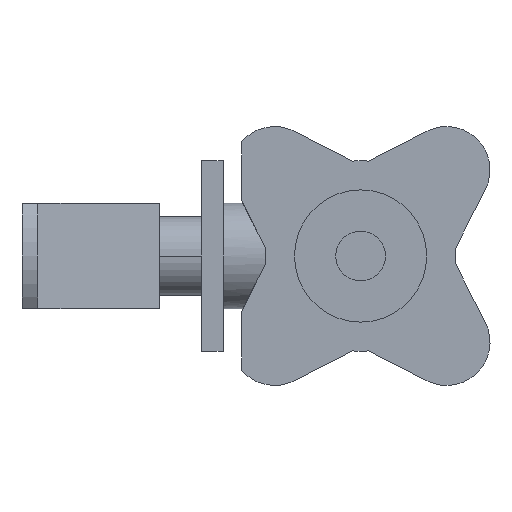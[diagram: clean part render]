
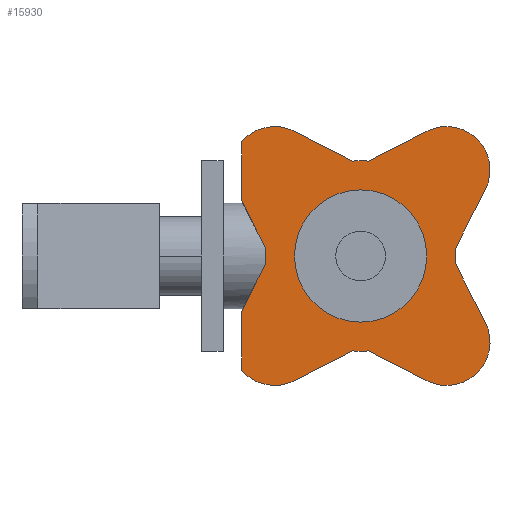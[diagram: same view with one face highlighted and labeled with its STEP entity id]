
A CAD part, left-side view. The second image highlights one B-rep face of the part: STEP entity #15930.
In plain terms, the highlighted planar face has unit normal (-1, 0, 0).
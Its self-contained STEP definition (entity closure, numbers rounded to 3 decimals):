
#60=CARTESIAN_POINT('',(20.281,26.737,
-16.263));
#70=DIRECTION('',(1.,0.,0.));
#80=DIRECTION('',(0.,0.707,
-0.707));
#90=AXIS2_PLACEMENT_3D('',#60,#70,#80);
#100=CIRCLE('',#90,8.2);
#110=CARTESIAN_POINT('',(20.281,19.43,
-12.541));
#120=VERTEX_POINT('',#110);
#130=CARTESIAN_POINT('',(20.281,30.459,
-23.57));
#140=VERTEX_POINT('',#130);
#150=EDGE_CURVE('',#120,#140,#100,.T.);
#480=CARTESIAN_POINT('',(20.281,27.678,
3.645));
#490=DIRECTION('',(0.,0.454,
0.891));
#500=VECTOR('',#490,1.);
#510=LINE('',#480,#500);
#520=CARTESIAN_POINT('',(20.281,25.062,
-1.489));
#530=VERTEX_POINT('',#520);
#540=EDGE_CURVE('',#120,#530,#510,.T.);
#790=CARTESIAN_POINT('',(20.281,43.,
0.));
#800=DIRECTION('',(1.,0.,0.));
#810=DIRECTION('',(0.,0.707,
-0.707));
#820=AXIS2_PLACEMENT_3D('',#790,#800,#810);
#830=CIRCLE('',#820,18.);
#840=CARTESIAN_POINT('',(20.281,25.062,
1.489));
#850=VERTEX_POINT('',#840);
#860=EDGE_CURVE('',#850,#530,#830,.T.);
#1120=CARTESIAN_POINT('',(20.281,34.542,
-17.118));
#1130=DIRECTION('',(0.,-0.454,
0.891));
#1140=VECTOR('',#1130,1.);
#1150=LINE('',#1120,#1140);
#1160=CARTESIAN_POINT('',(20.281,19.43,
12.541));
#1170=VERTEX_POINT('',#1160);
#1180=EDGE_CURVE('',#850,#1170,#1150,.T.);
#1430=CARTESIAN_POINT('',(20.281,26.737,
16.263));
#1440=DIRECTION('',(1.,0.,0.));
#1450=DIRECTION('',(0.,0.707,
-0.707));
#1460=AXIS2_PLACEMENT_3D('',#1430,#1440,#1450);
#1470=CIRCLE('',#1460,8.2);
#1480=CARTESIAN_POINT('',(20.281,30.459,
23.57));
#1490=VERTEX_POINT('',#1480);
#1500=EDGE_CURVE('',#1490,#1170,#1470,.T.);
#1760=CARTESIAN_POINT('',(20.281,60.118,
8.458));
#1770=DIRECTION('',(0.,0.891,
-0.454));
#1780=VECTOR('',#1770,1.);
#1790=LINE('',#1760,#1780);
#1800=CARTESIAN_POINT('',(20.281,41.511,
17.938));
#1810=VERTEX_POINT('',#1800);
#1820=EDGE_CURVE('',#1490,#1810,#1790,.T.);
#2070=CARTESIAN_POINT('',(20.281,43.,
0.));
#2080=DIRECTION('',(1.,0.,0.));
#2090=DIRECTION('',(0.,0.707,
-0.707));
#2100=AXIS2_PLACEMENT_3D('',#2070,#2080,#2090);
#2110=CIRCLE('',#2100,18.);
#2120=CARTESIAN_POINT('',(20.281,44.489,
17.938));
#2130=VERTEX_POINT('',#2120);
#2140=EDGE_CURVE('',#2130,#1810,#2110,.T.);
#2400=CARTESIAN_POINT('',(20.281,39.355,
15.322));
#2410=DIRECTION('',(0.,0.891,
0.454));
#2420=VECTOR('',#2410,1.);
#2430=LINE('',#2400,#2420);
#2440=CARTESIAN_POINT('',(20.281,55.541,
23.57));
#2450=VERTEX_POINT('',#2440);
#2460=EDGE_CURVE('',#2130,#2450,#2430,.T.);
#2710=CARTESIAN_POINT('',(20.281,59.263,
16.263));
#2720=DIRECTION('',(1.,0.,0.));
#2730=DIRECTION('',(0.,0.707,
-0.707));
#2740=AXIS2_PLACEMENT_3D('',#2710,#2720,#2730);
#2750=CIRCLE('',#2740,8.2);
#2760=CARTESIAN_POINT('',(20.281,65.5,
21.588));
#2770=VERTEX_POINT('',#2760);
#2780=EDGE_CURVE('',#2770,#2450,#2750,.T.);
#3040=CARTESIAN_POINT('',(20.281,65.5,
19.861));
#3050=DIRECTION('',(0.,0.,1.));
#3060=VECTOR('',#3050,1.);
#3070=LINE('',#3040,#3060);
#3080=CARTESIAN_POINT('',(20.281,65.5,
10.441));
#3090=VERTEX_POINT('',#3080);
#3100=EDGE_CURVE('',#3090,#2770,#3070,.T.);
#3810=CARTESIAN_POINT('',(20.281,68.153,
15.647));
#3820=DIRECTION('',(0.,0.454,
0.891));
#3830=VECTOR('',#3820,1.);
#3840=LINE('',#3810,#3830);
#3850=CARTESIAN_POINT('',(20.281,60.938,
1.489));
#3860=VERTEX_POINT('',#3850);
#3870=EDGE_CURVE('',#3860,#3090,#3840,.T.);
#4840=CARTESIAN_POINT('',(20.281,60.938,
-1.489));
#4850=VERTEX_POINT('',#4840);
#4880=CARTESIAN_POINT('',(20.281,54.381,
11.381));
#4890=DIRECTION('',(0.,-0.454,
0.891));
#4900=VECTOR('',#4890,1.);
#4910=LINE('',#4880,#4900);
#4920=CARTESIAN_POINT('',(20.281,65.5,
-10.441));
#4930=VERTEX_POINT('',#4920);
#4940=EDGE_CURVE('',#4930,#4850,#4910,.T.);
#5190=CARTESIAN_POINT('',(20.281,65.5,
22.5));
#5200=DIRECTION('',(0.,0.,1.));
#5210=VECTOR('',#5200,1.);
#5220=LINE('',#5190,#5210);
#5230=CARTESIAN_POINT('',(20.281,65.5,
-21.588));
#5240=VERTEX_POINT('',#5230);
#5250=EDGE_CURVE('',#5240,#4930,#5220,.T.);
#5920=CARTESIAN_POINT('',(20.281,59.263,
-16.263));
#5930=DIRECTION('',(1.,0.,0.));
#5940=DIRECTION('',(0.,0.707,
-0.707));
#5950=AXIS2_PLACEMENT_3D('',#5920,#5930,#5940);
#5960=CIRCLE('',#5950,8.2);
#5970=CARTESIAN_POINT('',(20.281,55.541,
-23.57));
#5980=VERTEX_POINT('',#5970);
#5990=EDGE_CURVE('',#5980,#5240,#5960,.T.);
#6250=CARTESIAN_POINT('',(20.281,46.219,
-18.82));
#6260=DIRECTION('',(0.,-0.891,
0.454));
#6270=VECTOR('',#6260,1.);
#6280=LINE('',#6250,#6270);
#6290=CARTESIAN_POINT('',(20.281,44.489,
-17.938));
#6300=VERTEX_POINT('',#6290);
#6310=EDGE_CURVE('',#5980,#6300,#6280,.T.);
#6560=CARTESIAN_POINT('',(20.281,43.,
0.));
#6570=DIRECTION('',(1.,0.,0.));
#6580=DIRECTION('',(0.,0.707,
-0.707));
#6590=AXIS2_PLACEMENT_3D('',#6560,#6570,#6580);
#6600=CIRCLE('',#6590,18.);
#6610=CARTESIAN_POINT('',(20.281,41.511,
-17.938));
#6620=VERTEX_POINT('',#6610);
#6630=EDGE_CURVE('',#6620,#6300,#6600,.T.);
#6890=CARTESIAN_POINT('',(20.281,53.253,
-11.955));
#6900=DIRECTION('',(0.,-0.891,
-0.454));
#6910=VECTOR('',#6900,1.);
#6920=LINE('',#6890,#6910);
#6930=EDGE_CURVE('',#6620,#140,#6920,.T.);
#7410=CARTESIAN_POINT('',(20.281,43.,
0.));
#7420=DIRECTION('',(-1.,0.,0.));
#7430=DIRECTION('',(0.,-0.707,
-0.707));
#7440=AXIS2_PLACEMENT_3D('',#7410,#7420,#7430);
#7450=CIRCLE('',#7440,18.);
#7460=EDGE_CURVE('',#3860,#4850,#7450,.T.);
#13240=CARTESIAN_POINT('',(20.281,43.,6.5));
#13250=VERTEX_POINT('',#13240);
#13300=CARTESIAN_POINT('',(20.281,43.,0.));
#13310=DIRECTION('',(-1.,0.,0.));
#13320=DIRECTION('',(0.,0.,1.));
#13330=AXIS2_PLACEMENT_3D('',#13300,#13310,#13320);
#13340=CIRCLE('',#13330,6.5);
#13350=CARTESIAN_POINT('',(20.281,43.,-6.5));
#13360=VERTEX_POINT('',#13350);
#13370=EDGE_CURVE('',#13360,#13250,#13340,.T.);
#15630=CARTESIAN_POINT('',(20.281,63.4,
20.4));
#15640=DIRECTION('',(-1.,0.,0.));
#15650=DIRECTION('',(0.,0.707,
0.707));
#15660=AXIS2_PLACEMENT_3D('',#15630,#15640,#15650);
#15670=PLANE('',#15660);
#15680=ORIENTED_EDGE('',*,*,#6930,.T.);
#15690=ORIENTED_EDGE('',*,*,#6630,.F.);
#15700=ORIENTED_EDGE('',*,*,#6310,.T.);
#15710=ORIENTED_EDGE('',*,*,#5990,.F.);
#15720=ORIENTED_EDGE('',*,*,#5250,.F.);
#15730=ORIENTED_EDGE('',*,*,#4940,.F.);
#15740=ORIENTED_EDGE('',*,*,#7460,.T.);
#15750=ORIENTED_EDGE('',*,*,#3870,.F.);
#15760=ORIENTED_EDGE('',*,*,#3100,.F.);
#15770=ORIENTED_EDGE('',*,*,#2780,.F.);
#15780=ORIENTED_EDGE('',*,*,#2460,.T.);
#15790=ORIENTED_EDGE('',*,*,#2140,.F.);
#15800=ORIENTED_EDGE('',*,*,#1820,.T.);
#15810=ORIENTED_EDGE('',*,*,#1500,.F.);
#15820=ORIENTED_EDGE('',*,*,#1180,.T.);
#15830=ORIENTED_EDGE('',*,*,#860,.F.);
#15840=ORIENTED_EDGE('',*,*,#540,.T.);
#15850=ORIENTED_EDGE('',*,*,#150,.F.);
#15860=EDGE_LOOP('',(#15850,#15840,#15830,#15820,#15810,#15800,#15790,
#15780,#15770,#15760,#15750,#15740,#15730,#15720,#15710,#15700,#15690,
#15680));
#15870=FACE_OUTER_BOUND('',#15860,.T.);
#15880=EDGE_CURVE('',#13250,#13360,#13340,.T.);
#15890=ORIENTED_EDGE('',*,*,#15880,.F.);
#15900=ORIENTED_EDGE('',*,*,#13370,.F.);
#15910=EDGE_LOOP('',(#15900,#15890));
#15920=FACE_BOUND('',#15910,.T.);
#15930=ADVANCED_FACE('',(#15870,#15920),#15670,.T.);
